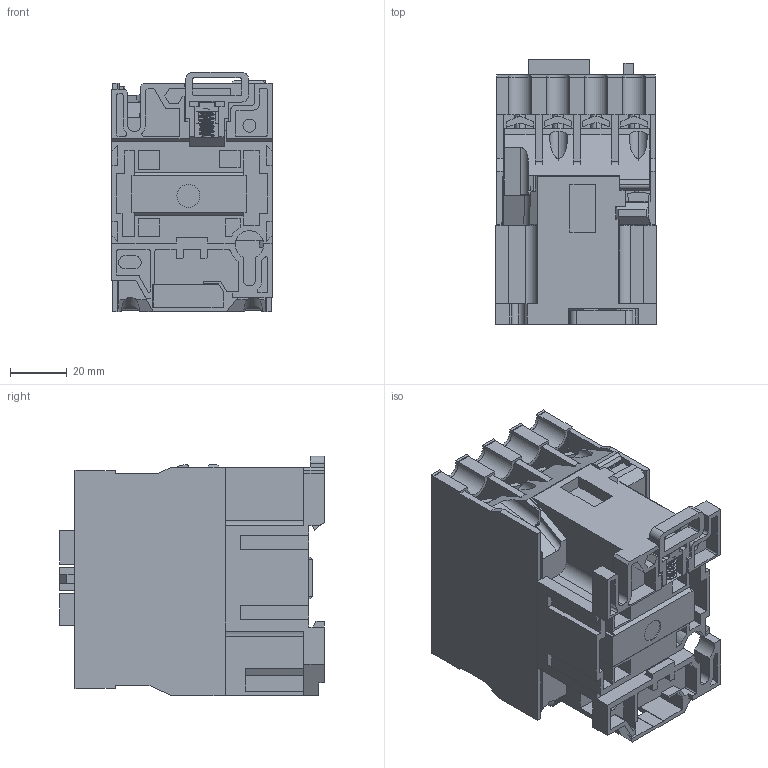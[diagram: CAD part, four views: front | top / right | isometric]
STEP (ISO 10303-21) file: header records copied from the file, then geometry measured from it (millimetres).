
FILE_DESCRIPTION (( 'STEP AP214' ), '1' );
FILE_NAME ('ﾏﾌﾋ2100.STEP', '2013-10-24T09:33:58', ( 'www.PHILka.RU' ), ( 'WareZ Provider ' ), 'SwSTEP 2.0', 'SolidWorks 2007', '' );
FILE_SCHEMA (( 'AUTOMOTIVE_DESIGN' ));
Length unit declared in the file: millimetre
Products named in the file (10): Êîðïóñ_Ïî óìîë÷àíèþ; ïðóæèíà_Ïî óìîë÷àíèþ; Ïàíåëü 1_Ïî óìîë÷àíèþ; Ïàíåëü2_Ïî óìîë÷àíèþ; Çàùåëêà_Ïî óìîë÷àíèþ; øàéáà3_Ïî óìîë÷àíèþ; Øàéáà_Ïî óìîë÷àíèþ; vintm4; âèíò Ì3_JIS B 1111 Binding head screw M3 x 10 --10N; ﾏﾌﾋ2100
Assembly tree (29 placements, depth 2):
  ﾏﾌﾋ2100
    Øàéáà_Ïî óìîë÷àíèþ  x8
    øàéáà3_Ïî óìîë÷àíèþ  x3
    âèíò Ì3_JIS B 1111 Binding head screw M3 x 10 --10N  x5
    vintm4  x8
    Êîðïóñ_Ïî óìîë÷àíèþ
    Çàùåëêà_Ïî óìîë÷àíèþ
    Ïàíåëü 1_Ïî óìîë÷àíèþ
    ïðóæèíà_Ïî óìîë÷àíèþ
    Ïàíåëü2_Ïî óìîë÷àíèþ
Bounding box: 56.5 x 93.4 x 84.42 mm (x, y, z)
Volume: 274815 mm3; surface area: 78794.3 mm2
Topology: 29 solids, 29 shells, 1210 faces, 3294 edges, 2132 vertices
Faces by surface type: plane 877, cylinder 237, sphere 42, cone 40, torus 10, bspline 4
Entity records: 27385 total; most frequent: CARTESIAN_POINT 6429, ORIENTED_EDGE 4440, DIRECTION 4082, EDGE_CURVE 2220, VECTOR 1824, LINE 1824, VERTEX_POINT 1456, AXIS2_PLACEMENT_3D 1129
